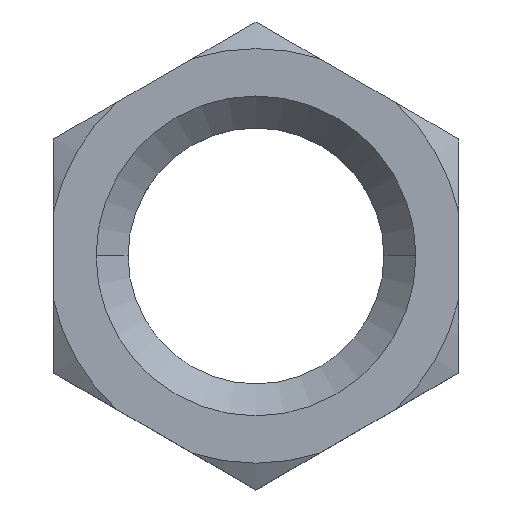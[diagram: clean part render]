
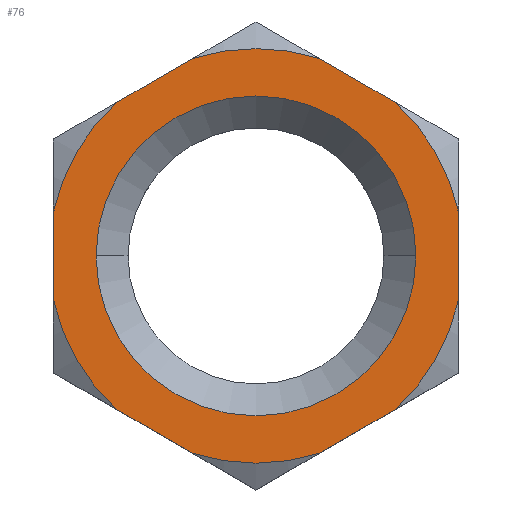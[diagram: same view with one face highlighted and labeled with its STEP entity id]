
A CAD part, top view. The second image highlights one B-rep face of the part: STEP entity #76.
In plain terms, the highlighted planar face has unit normal (0, 0, 1).
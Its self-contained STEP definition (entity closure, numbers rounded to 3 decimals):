
#8 = CARTESIAN_POINT ( 'NONE',  ( 2.971, 9.255, 2.85 ) ) ;
#10 = ORIENTED_EDGE ( 'NONE', *, *, #319, .T. ) ;
#19 = CARTESIAN_POINT ( 'NONE',  ( 0., 0., 2.85 ) ) ;
#20 = VERTEX_POINT ( 'NONE', #73 ) ;
#22 = CARTESIAN_POINT ( 'NONE',  ( 0., 10.97, 2.85 ) ) ;
#25 = LINE ( 'NONE', #763, #577 ) ;
#31 = EDGE_CURVE ( 'NONE', #48, #428, #684, .T. ) ;
#45 = CARTESIAN_POINT ( 'NONE',  ( 0., 0., 2.85 ) ) ;
#48 = VERTEX_POINT ( 'NONE', #300 ) ;
#59 = EDGE_CURVE ( 'NONE', #118, #495, #330, .T. ) ;
#68 = CARTESIAN_POINT ( 'NONE',  ( 6.529, -7.2, 2.85 ) ) ;
#73 = CARTESIAN_POINT ( 'NONE',  ( -7.5, 0., 2.85 ) ) ;
#76 = ADVANCED_FACE ( 'NONE', ( #913, #896 ), #875, .T. ) ;
#80 = CIRCLE ( 'NONE', #419, 9.72 ) ;
#83 = CARTESIAN_POINT ( 'NONE',  ( 0., 0., 2.85 ) ) ;
#91 = DIRECTION ( 'NONE',  ( -0.866, -0.5, 0. ) ) ;
#98 = CARTESIAN_POINT ( 'NONE',  ( 0., 0., 2.85 ) ) ;
#109 = EDGE_CURVE ( 'NONE', #135, #292, #488, .T. ) ;
#114 = AXIS2_PLACEMENT_3D ( 'NONE', #209, #861, #282 ) ;
#117 = DIRECTION ( 'NONE',  ( 0., 0., -1. ) ) ;
#118 = VERTEX_POINT ( 'NONE', #181 ) ;
#119 = DIRECTION ( 'NONE',  ( -0.866, 0.5, 0. ) ) ;
#126 = ORIENTED_EDGE ( 'NONE', *, *, #819, .T. ) ;
#135 = VERTEX_POINT ( 'NONE', #920 ) ;
#156 = CARTESIAN_POINT ( 'NONE',  ( 0., 0., 2.85 ) ) ;
#157 = EDGE_CURVE ( 'NONE', #389, #259, #80, .T. ) ;
#161 = ORIENTED_EDGE ( 'NONE', *, *, #59, .F. ) ;
#164 = EDGE_LOOP ( 'NONE', ( #466, #175 ) ) ;
#165 = DIRECTION ( 'NONE',  ( 0., 0., 1. ) ) ;
#175 = ORIENTED_EDGE ( 'NONE', *, *, #284, .T. ) ;
#176 = DIRECTION ( 'NONE',  ( -1., 0., 0. ) ) ;
#179 = CARTESIAN_POINT ( 'NONE',  ( 7.5, 0., 2.85 ) ) ;
#181 = CARTESIAN_POINT ( 'NONE',  ( -9.5, 2.055, 2.85 ) ) ;
#199 = VECTOR ( 'NONE', #932, 1000. ) ;
#209 = CARTESIAN_POINT ( 'NONE',  ( 0., 0., 2.85 ) ) ;
#213 = EDGE_CURVE ( 'NONE', #48, #495, #343, .T. ) ;
#227 = DIRECTION ( 'NONE',  ( 0., 0., -1. ) ) ;
#240 = CIRCLE ( 'NONE', #776, 7.5 ) ;
#259 = VERTEX_POINT ( 'NONE', #384 ) ;
#276 = VERTEX_POINT ( 'NONE', #314 ) ;
#281 = ORIENTED_EDGE ( 'NONE', *, *, #784, .F. ) ;
#282 = DIRECTION ( 'NONE',  ( 1., 0., 0. ) ) ;
#284 = EDGE_CURVE ( 'NONE', #20, #453, #240, .T. ) ;
#287 = CARTESIAN_POINT ( 'NONE',  ( -9.5, -5.485, 2.85 ) ) ;
#292 = VERTEX_POINT ( 'NONE', #850 ) ;
#297 = ORIENTED_EDGE ( 'NONE', *, *, #31, .F. ) ;
#300 = CARTESIAN_POINT ( 'NONE',  ( -2.971, 9.255, 2.85 ) ) ;
#308 = AXIS2_PLACEMENT_3D ( 'NONE', #743, #317, #387 ) ;
#314 = CARTESIAN_POINT ( 'NONE',  ( -2.971, -9.255, 2.85 ) ) ;
#317 = DIRECTION ( 'NONE',  ( 0., 0., -1. ) ) ;
#319 = EDGE_CURVE ( 'NONE', #698, #292, #406, .T. ) ;
#323 = VECTOR ( 'NONE', #916, 1000. ) ;
#330 = CIRCLE ( 'NONE', #540, 9.72 ) ;
#335 = ORIENTED_EDGE ( 'NONE', *, *, #157, .F. ) ;
#340 = AXIS2_PLACEMENT_3D ( 'NONE', #156, #397, #902 ) ;
#343 = LINE ( 'NONE', #22, #634 ) ;
#357 = CARTESIAN_POINT ( 'NONE',  ( 9.5, -5.485, 2.85 ) ) ;
#370 = CARTESIAN_POINT ( 'NONE',  ( 2.971, -9.255, 2.85 ) ) ;
#372 = AXIS2_PLACEMENT_3D ( 'NONE', #98, #602, #176 ) ;
#384 = CARTESIAN_POINT ( 'NONE',  ( -9.5, -2.055, 2.85 ) ) ;
#385 = DIRECTION ( 'NONE',  ( 1., 0., 0. ) ) ;
#387 = DIRECTION ( 'NONE',  ( -1., 0., 0. ) ) ;
#389 = VERTEX_POINT ( 'NONE', #440 ) ;
#395 = CIRCLE ( 'NONE', #340, 9.72 ) ;
#397 = DIRECTION ( 'NONE',  ( 0., 0., -1. ) ) ;
#400 = CARTESIAN_POINT ( 'NONE',  ( -9.5, 5.485, 2.85 ) ) ;
#402 = ORIENTED_EDGE ( 'NONE', *, *, #731, .T. ) ;
#406 = LINE ( 'NONE', #357, #537 ) ;
#407 = VERTEX_POINT ( 'NONE', #370 ) ;
#419 = AXIS2_PLACEMENT_3D ( 'NONE', #45, #117, #534 ) ;
#428 = VERTEX_POINT ( 'NONE', #8 ) ;
#440 = CARTESIAN_POINT ( 'NONE',  ( -6.529, -7.2, 2.85 ) ) ;
#450 = DIRECTION ( 'NONE',  ( -1., 0., 0. ) ) ;
#453 = VERTEX_POINT ( 'NONE', #179 ) ;
#466 = ORIENTED_EDGE ( 'NONE', *, *, #889, .T. ) ;
#472 = CIRCLE ( 'NONE', #114, 7.5 ) ;
#474 = EDGE_CURVE ( 'NONE', #698, #795, #395, .T. ) ;
#484 = CARTESIAN_POINT ( 'NONE',  ( 9.5, -2.055, 2.85 ) ) ;
#488 = CIRCLE ( 'NONE', #372, 9.72 ) ;
#494 = DIRECTION ( 'NONE',  ( 0., 1., 0. ) ) ;
#495 = VERTEX_POINT ( 'NONE', #869 ) ;
#496 = DIRECTION ( 'NONE',  ( 0., 0., -1. ) ) ;
#534 = DIRECTION ( 'NONE',  ( -1., 0., 0. ) ) ;
#537 = VECTOR ( 'NONE', #494, 1000. ) ;
#540 = AXIS2_PLACEMENT_3D ( 'NONE', #19, #804, #450 ) ;
#546 = DIRECTION ( 'NONE',  ( 0., -1., 0. ) ) ;
#564 = EDGE_LOOP ( 'NONE', ( #694, #10, #735, #823, #297, #864, #161, #625, #335, #126, #281, #402 ) ) ;
#577 = VECTOR ( 'NONE', #119, 1000. ) ;
#602 = DIRECTION ( 'NONE',  ( 0., 0., -1. ) ) ;
#613 = CIRCLE ( 'NONE', #915, 9.72 ) ;
#625 = ORIENTED_EDGE ( 'NONE', *, *, #627, .T. ) ;
#627 = EDGE_CURVE ( 'NONE', #118, #259, #912, .T. ) ;
#634 = VECTOR ( 'NONE', #91, 1000. ) ;
#646 = LINE ( 'NONE', #843, #323 ) ;
#672 = LINE ( 'NONE', #287, #199 ) ;
#684 = CIRCLE ( 'NONE', #308, 9.72 ) ;
#694 = ORIENTED_EDGE ( 'NONE', *, *, #474, .F. ) ;
#698 = VERTEX_POINT ( 'NONE', #484 ) ;
#701 = EDGE_CURVE ( 'NONE', #135, #428, #25, .T. ) ;
#721 = CARTESIAN_POINT ( 'NONE',  ( 0., 0., 2.85 ) ) ;
#727 = VECTOR ( 'NONE', #546, 1000. ) ;
#731 = EDGE_CURVE ( 'NONE', #407, #795, #646, .T. ) ;
#735 = ORIENTED_EDGE ( 'NONE', *, *, #109, .F. ) ;
#743 = CARTESIAN_POINT ( 'NONE',  ( 0., 0., 2.85 ) ) ;
#763 = CARTESIAN_POINT ( 'NONE',  ( 9.5, 5.485, 2.85 ) ) ;
#776 = AXIS2_PLACEMENT_3D ( 'NONE', #721, #227, #783 ) ;
#783 = DIRECTION ( 'NONE',  ( 1., 0., 0. ) ) ;
#784 = EDGE_CURVE ( 'NONE', #407, #276, #613, .T. ) ;
#795 = VERTEX_POINT ( 'NONE', #68 ) ;
#804 = DIRECTION ( 'NONE',  ( 0., 0., -1. ) ) ;
#819 = EDGE_CURVE ( 'NONE', #389, #276, #672, .T. ) ;
#823 = ORIENTED_EDGE ( 'NONE', *, *, #701, .T. ) ;
#843 = CARTESIAN_POINT ( 'NONE',  ( 0., -10.97, 2.85 ) ) ;
#850 = CARTESIAN_POINT ( 'NONE',  ( 9.5, 2.055, 2.85 ) ) ;
#859 = AXIS2_PLACEMENT_3D ( 'NONE', #83, #165, #385 ) ;
#861 = DIRECTION ( 'NONE',  ( 0., 0., -1. ) ) ;
#864 = ORIENTED_EDGE ( 'NONE', *, *, #213, .T. ) ;
#869 = CARTESIAN_POINT ( 'NONE',  ( -6.529, 7.2, 2.85 ) ) ;
#875 = PLANE ( 'NONE',  #859 ) ;
#889 = EDGE_CURVE ( 'NONE', #453, #20, #472, .T. ) ;
#896 = FACE_OUTER_BOUND ( 'NONE', #564, .T. ) ;
#902 = DIRECTION ( 'NONE',  ( -1., 0., 0. ) ) ;
#912 = LINE ( 'NONE', #400, #727 ) ;
#913 = FACE_BOUND ( 'NONE', #164, .T. ) ;
#915 = AXIS2_PLACEMENT_3D ( 'NONE', #923, #496, #927 ) ;
#916 = DIRECTION ( 'NONE',  ( 0.866, 0.5, 0. ) ) ;
#920 = CARTESIAN_POINT ( 'NONE',  ( 6.529, 7.2, 2.85 ) ) ;
#923 = CARTESIAN_POINT ( 'NONE',  ( 0., 0., 2.85 ) ) ;
#927 = DIRECTION ( 'NONE',  ( -1., 0., 0. ) ) ;
#932 = DIRECTION ( 'NONE',  ( 0.866, -0.5, 0. ) ) ;
